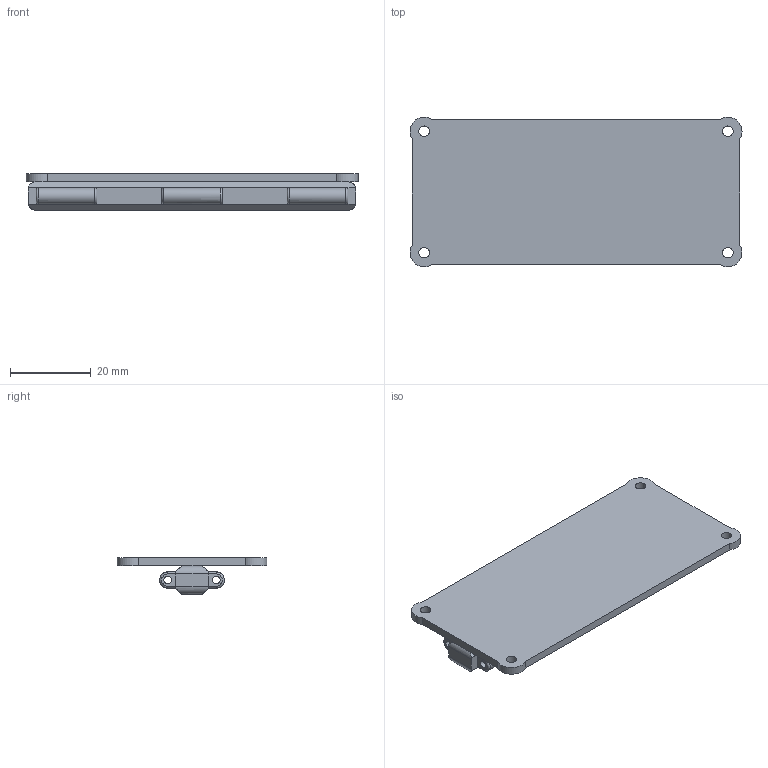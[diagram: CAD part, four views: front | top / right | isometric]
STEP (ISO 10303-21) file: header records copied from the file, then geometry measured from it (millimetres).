
FILE_DESCRIPTION(/* description */ (''),/* implementation_level */ '2;1');
FILE_NAME(/* name */ 'CentreMagneticBack.step',/* time_stamp */ '2026-09-30T10:56:09+13:00',/* author */ (''),/* organization */ (''),/* preprocessor_version */ 'ST-DEVELOPER v20.2',/* originating_system */ 'Autodesk Translation Framework v15.15.0.0',/* authorisation */ '');
FILE_SCHEMA (('AUTOMOTIVE_DESIGN { 1 0 10303 214 3 1 1 }'));
Length unit declared in the file: millimetre
Products named in the file (3): 2026-08-23-14-38-27-662; 2026-09-05-13-34-59-849; 2026-09-08-12-16-59-235
Assembly tree (2 placements, depth 3):
  2026-08-23-14-38-27-662
    2026-09-05-13-34-59-849
      2026-09-08-12-16-59-235
Bounding box: 81.99 x 36.99 x 9 mm (x, y, z)
Volume: 8310.9 mm3; surface area: 13816.9 mm2
Topology: 1 solids, 7 shells, 127 faces, 310 edges, 198 vertices
Faces by surface type: cylinder 60, plane 55, bspline 12
Full cylindrical faces by diameter (mm): 1.9 x6, 2.6 x4
Entity records: 4284 total; most frequent: CARTESIAN_POINT 1120, DIRECTION 664, ORIENTED_EDGE 620, EDGE_CURVE 310, AXIS2_PLACEMENT_3D 246, VERTEX_POINT 198, LINE 172, VECTOR 172
